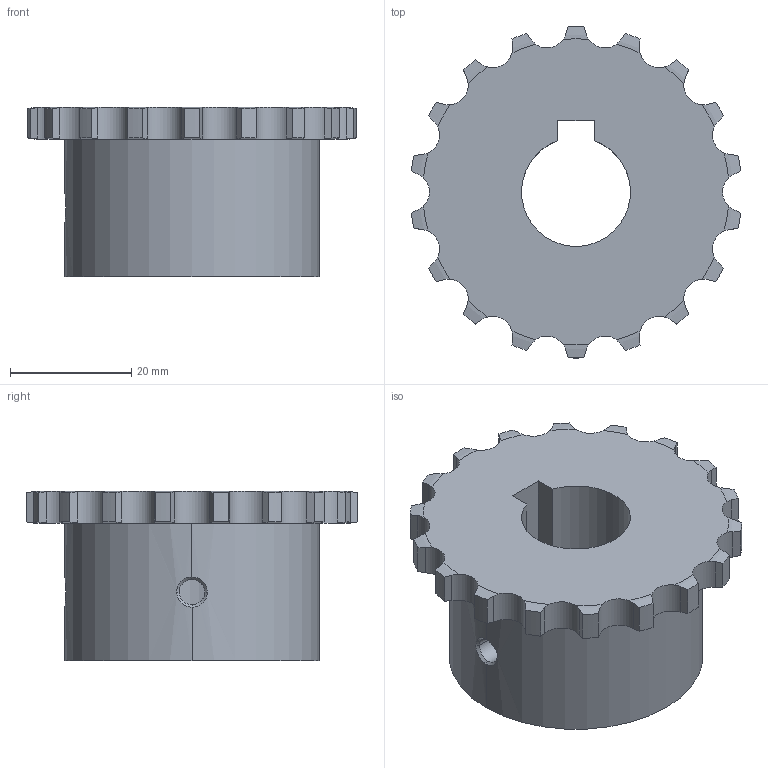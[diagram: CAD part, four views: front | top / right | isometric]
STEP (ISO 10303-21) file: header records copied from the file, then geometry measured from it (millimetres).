
FILE_DESCRIPTION((''),'2;1');
FILE_NAME('510-101-1818_PRT','2021-02-13T',('Brieden'),('Brieden'),'PRO/ENGINEER BY PARAMETRIC TECHNOLOGY CORPORATION, 2010160','PRO/ENGINEER BY PARAMETRIC TECHNOLOGY CORPORATION, 2010160','');
FILE_SCHEMA(('AUTOMOTIVE_DESIGN { 1 0 10303 214 1 1 1 1 }'));
Length unit declared in the file: millimetre
Products named in the file (1): 510-101-1818_PRT
Bounding box: 54.4 x 54.84 x 28 mm (x, y, z)
Volume: 34509.7 mm3; surface area: 9733 mm2
Topology: 1 solids, 1 shells, 127 faces, 369 edges, 244 vertices
Faces by surface type: cylinder 79, torus 36, plane 6, bspline 6
Entity records: 6250 total; most frequent: CARTESIAN_POINT 1927, ORIENTED_EDGE 738, DIRECTION 569, PRESENTATION_STYLE_ASSIGNMENT 370, STYLED_ITEM 370, CURVE_STYLE 369, EDGE_CURVE 369, VERTEX_POINT 244
